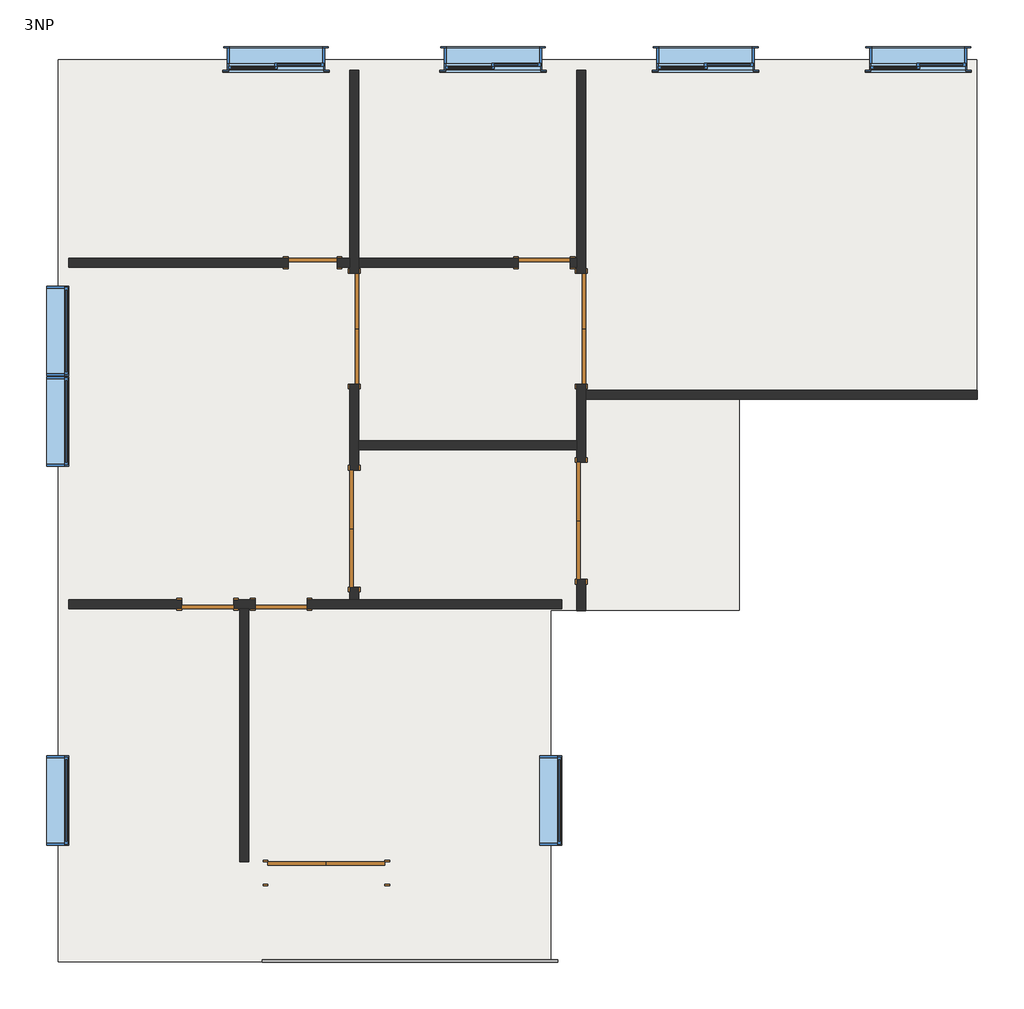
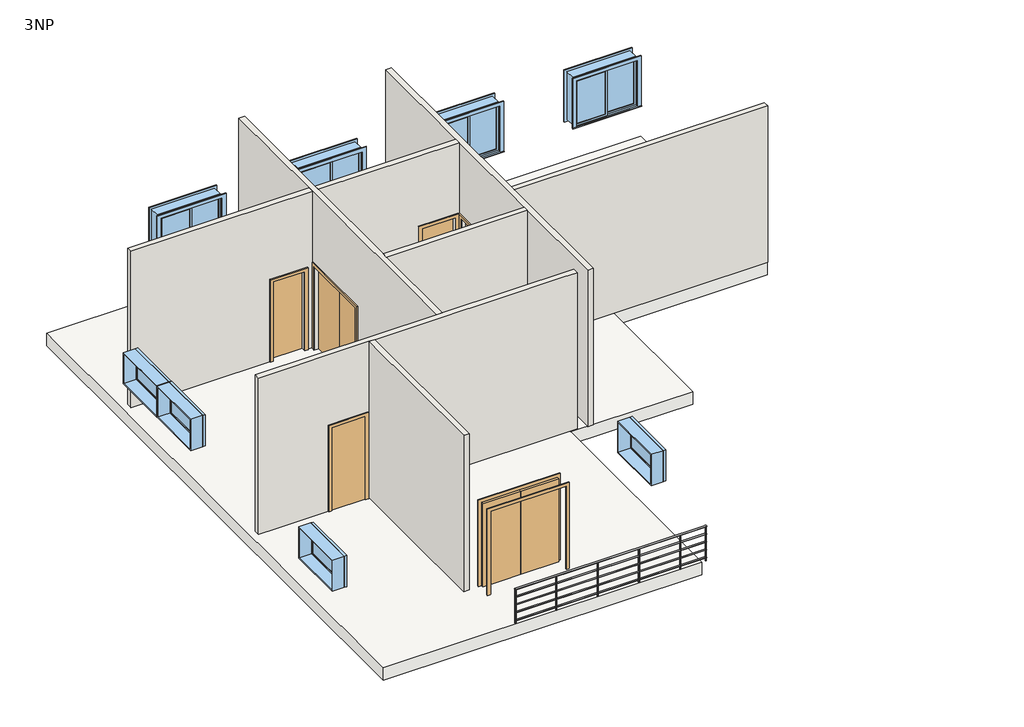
# One storey: 9 doors, 8 walls, 8 windows, 1 railing, 1 slab.
"""IFC4 building model written with IfcOpenShell, lengths in millimetres."""

from ifc_helpers import new_model, si_unit, frame, origin, place, context, project, spatial, polyline, outline, extrude, faceted_brep, transform, mapped, element, save
from components import m_double_flush_1730_x_2134mm_ea805d98, m_double_flush_1830_x_2083mm_7a28c534, m_double_flush_1830_x_2134mm_224c2c1d, m_single_flush_0762_x_2032mm_93de2473, m_single_flush_0813_x_2134mm_bf4bb56d, m_single_flush_0813_x_2134mm_cfdfac75, railing_900mm_pipe_c553a1ad, m_fixed_1400_x_0800mm_a23a53e8, m_sliding_with_trim_1830_x_1220mm_f8e2f31e

model = new_model("IFC4")

# Units and contexts
model_context = context("Model", 3, world=origin())
ifc_project = project(units=[si_unit("LENGTHUNIT", "METRE", prefix="MILLI")], contexts=[model_context])

# Site, building, storey
site = spatial("IfcSite", under=ifc_project)
building = spatial("IfcBuilding", under=site)
storey = spatial("IfcBuildingStorey", under=building, Name="3NP", Elevation=8000.0)

# Doors
placement = place(None, origin())
m_double_flush_1730_x_2134mm_shape = m_double_flush_1730_x_2134mm_ea805d98(model_context)
element("IfcDoor", 1, ObjectType="M_Double-Flush : 1730 x 2134mm", at=placement, inside=storey, context=model_context, shape_type="MappedRepresentation", body=[
    mapped(m_double_flush_1730_x_2134mm_shape, transform((833.993045, 5665.0261065, 8000.0), x_axis=(0.0, 1.0, 0.0), y_axis=(-1.0, 0.0, 0.0), z_axis=(0.0, 0.0, 1.0))),
])
element("IfcDoor", 2, ObjectType="M_Double-Flush : 1730 x 2134mm", at=placement, inside=storey, context=model_context, shape_type="MappedRepresentation", body=[
    mapped(m_double_flush_1730_x_2134mm_shape, transform((-2716.006955, 5665.0261065, 8000.0), x_axis=(0.0, 1.0, 0.0), y_axis=(-1.0, 0.0, 0.0), z_axis=(0.0, 0.0, 1.0))),
])
m_double_flush_1830_x_2083mm_shape = m_double_flush_1830_x_2083mm_7a28c534(model_context)
element("IfcDoor", 3, ObjectType="M_Double-Flush : 1830 x 2083mm", at=placement, inside=storey, context=model_context, shape_type="MappedRepresentation", body=[
    mapped(m_double_flush_1830_x_2083mm_shape, transform((-2716.006955, 2539.8026806, 8000.0), x_axis=(0.0, 1.0, 0.0), y_axis=(-1.0, 0.0, 0.0), z_axis=(0.0, 0.0, 1.0))),
])
element("IfcDoor", 4, ObjectType="M_Double-Flush : 1830 x 2083mm", at=placement, inside=storey, context=model_context, shape_type="MappedRepresentation", body=[
    mapped(m_double_flush_1830_x_2083mm_shape, transform((833.993045, 2658.1003657, 8000.0), x_axis=(0.0, 1.0, 0.0), y_axis=(-1.0, 0.0, 0.0), z_axis=(0.0, 0.0, 1.0))),
])
m_double_flush_1830_x_2134mm_shape = m_double_flush_1830_x_2134mm_224c2c1d(model_context)
element("IfcDoor", 5, ObjectType="M_Double-Flush : 1830 x 2134mm", at=placement, inside=storey, context=model_context, shape_type="MappedRepresentation", body=[
    mapped(m_double_flush_1830_x_2134mm_shape, transform((-3151.8077176, -2850.1973194, 8000.0), x_axis=(0.9999999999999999, 0.0, 0.0), y_axis=(0.0, 0.9999999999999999, 0.0), z_axis=(0.0, 0.0, 1.0))),
])
m_single_flush_0762_x_2032mm_shape = m_single_flush_0762_x_2032mm_93de2473(model_context)
element("IfcDoor", 6, ObjectType="M_Single-Flush : 0762 x 2032mm", at=placement, inside=storey, context=model_context, shape_type="MappedRepresentation", body=[
    mapped(m_single_flush_0762_x_2032mm_shape, transform((-3366.256955, 6699.2761065, 8000.0), x_axis=(1.0, 0.0, 0.0), y_axis=(0.0, 1.0, 0.0), z_axis=(0.0, 0.0, 1.0))),
])
m_single_flush_0813_x_2134mm_shape = m_single_flush_0813_x_2134mm_bf4bb56d(model_context)
element("IfcDoor", 7, ObjectType="M_Single-Flush : 0813 x 2134mm", at=placement, inside=storey, context=model_context, shape_type="MappedRepresentation", body=[
    mapped(m_single_flush_0813_x_2134mm_shape, transform((-5011.8077176, 1355.5526806, 8000.0), x_axis=(1.0, 0.0, 0.0), y_axis=(0.0, 1.0, 0.0), z_axis=(0.0, 0.0, 1.0))),
])
m_single_flush_0813_x_2134mm_2_shape = m_single_flush_0813_x_2134mm_cfdfac75(model_context)
element("IfcDoor", 8, ObjectType="M_Single-Flush : 0813 x 2134mm", at=placement, inside=storey, context=model_context, shape_type="MappedRepresentation", body=[
    mapped(m_single_flush_0813_x_2134mm_2_shape, transform((-3860.3077176, 1355.5526806, 8000.0), x_axis=(-1.0, 0.0, 0.0), y_axis=(0.0, -1.0, 0.0), z_axis=(0.0, 0.0, 1.0))),
])
element("IfcDoor", 9, ObjectType="M_Single-Flush : 0813 x 2134mm", at=placement, inside=storey, context=model_context, shape_type="MappedRepresentation", body=[
    mapped(m_single_flush_0813_x_2134mm_2_shape, transform((258.243045, 6699.2761065, 8000.0), x_axis=(1.0, 0.0, 0.0), y_axis=(0.0, 1.0, 0.0), z_axis=(0.0, 0.0, 1.0))),
])

# Railing
railing_900mm_pipe_shape = railing_900mm_pipe_c553a1ad(model_context)
element("IfcRailing", 10, ObjectType="900mm Pipe", at=placement, inside=storey, context=model_context, shape_type="MappedRepresentation", body=[
    mapped(railing_900mm_pipe_shape, transform((0.0, 0.0, 0.0), x_axis=(1.0, 0.0, 0.0), y_axis=(0.0, 1.0, 0.0), z_axis=(0.0, 0.0, 1.0))),
])

# Slab
element("IfcSlab", 11, ObjectType="Residential 320mm", at=placement, inside=storey, context=model_context, shape_type="SweptSolid", body=[
    extrude(outline(polyline([(-7345.3077176, 9876.6003657), (7023.993045, 9876.6003657), (7023.993045, 4561.5261065), (3308.993045, 4561.5261065), (3308.993045, 1259.8026806), (357.3775179, 1259.8026806), (357.3775179, -4240.1973194), (-7345.3077176, -4240.1973194), (-7345.3077176, 9876.6003657)])), frame((0.0, 0.0, 7680.0), z_axis=(0.0, 0.0, 1.0), x_axis=(1.0, 0.0, 0.0)), (0.0, 0.0, 1.0), 320.0),
])

# Walls
element("IfcWall", 12, ObjectType="Interior - 138mm Partition (1-hr)", at=placement, inside=storey, context=model_context, shape_type="Brep", body=[
    faceted_brep([(-4266.8077176, 1424.8026806, 10134.0), (-4266.8077176, 1424.8026806, 8000.0), (-4605.3077176, 1424.8026806, 8000.0), (-4605.3077176, 1424.8026806, 10134.0), (-5418.3077176, 1424.8026806, 10134.0), (-5418.3077176, 1424.8026806, 8000.0), (-7180.3077176, 1424.8026806, 8000.0), (-7180.3077176, 1424.8026806, 12000.0), (-2785.256955, 1424.8026806, 12000.0), (-2646.756955, 1424.8026806, 12000.0), (532.3775179, 1424.8026806, 12000.0), (532.3775179, 1424.8026806, 8000.0), (182.3775179, 1424.8026806, 8000.0), (-2646.756955, 1424.8026806, 8000.0), (-2785.256955, 1424.8026806, 8000.0), (-3453.8077176, 1424.8026806, 8000.0), (-3453.8077176, 1424.8026806, 10134.0), (-4605.3077176, 1286.3026806, 8000.0), (-4505.3077176, 1286.3026806, 8000.0), (-4366.8077176, 1286.3026806, 8000.0), (-4266.8077176, 1286.3026806, 8000.0), (-4266.8077176, 1286.3026806, 10134.0), (-3453.8077176, 1286.3026806, 10134.0), (-3453.8077176, 1286.3026806, 8000.0), (182.3775179, 1286.3026806, 8000.0), (532.3775179, 1286.3026806, 8000.0), (532.3775179, 1286.3026806, 12000.0), (182.3775179, 1286.3026806, 12000.0), (-4366.8077176, 1286.3026806, 12000.0), (-4505.3077176, 1286.3026806, 12000.0), (-7180.3077176, 1286.3026806, 12000.0), (-7180.3077176, 1286.3026806, 8000.0), (-5418.3077176, 1286.3026806, 8000.0), (-5418.3077176, 1286.3026806, 10134.0), (-4605.3077176, 1286.3026806, 10134.0)], [[[0, 1, 2, 3, 4, 5, 6, 7, 8, 9, 10, 11, 12, 13, 14, 15, 16]], [[17, 18, 19, 20, 21, 22, 23, 24, 25, 26, 27, 28, 29, 30, 31, 32, 33, 34]], [[2, 1, 20, 19, 18, 17]], [[32, 31, 6, 5]], [[15, 14, 13, 12, 11, 25, 24, 23]], [[10, 9, 8, 7, 30, 29, 28, 27, 26]], [[11, 10, 26, 25]], [[7, 6, 31, 30]], [[3, 2, 17, 34]], [[4, 3, 34, 33]], [[5, 4, 33, 32]], [[21, 20, 1, 0]], [[22, 21, 0, 16]], [[23, 22, 16, 15]]]),
])
element("IfcWall", 13, ObjectType="Interior - 138mm Partition (1-hr)", at=placement, inside=storey, context=model_context, shape_type="SweptSolid", body=[
    extrude(outline(polyline([(-4505.3077176, -2675.1973194), (-4505.3077176, 1286.3026806), (-4366.8077176, 1286.3026806), (-4366.8077176, -2675.1973194), (-4505.3077176, -2675.1973194)])), frame((0.0, 0.0, 8000.0), z_axis=(0.0, 0.0, 1.0), x_axis=(1.0, 0.0, 0.0)), (0.0, 0.0, 1.0), 4000.0),
])
element("IfcWall", 14, ObjectType="Interior - 138mm Partition (1-hr)", at=placement, inside=storey, context=model_context, shape_type="Brep", body=[
    faceted_brep([(903.243045, 3573.1003657, 10083.0), (903.243045, 3573.1003657, 8000.0), (903.243045, 4561.5261065, 8000.0), (903.243045, 4700.0261065, 8000.0), (903.243045, 4800.0261065, 8000.0), (903.243045, 4800.0261065, 10134.0), (903.243045, 6530.0261065, 10134.0), (903.243045, 6530.0261065, 8000.0), (903.243045, 9711.6003657, 8000.0), (903.243045, 9711.6003657, 12000.0), (903.243045, 4700.0261065, 12000.0), (903.243045, 4561.5261065, 12000.0), (903.243045, 1249.8026806, 12000.0), (903.243045, 1249.8026806, 8000.0), (903.243045, 1743.1003657, 8000.0), (903.243045, 1743.1003657, 10083.0), (764.743045, 4800.0261065, 8000.0), (764.743045, 3911.6003657, 8000.0), (764.743045, 3773.1003657, 8000.0), (764.743045, 3573.1003657, 8000.0), (764.743045, 3573.1003657, 10083.0), (764.743045, 1743.1003657, 10083.0), (764.743045, 1743.1003657, 8000.0), (764.743045, 1249.8026806, 8000.0), (764.743045, 1249.8026806, 12000.0), (764.743045, 3773.1003657, 12000.0), (764.743045, 3911.6003657, 12000.0), (764.743045, 6630.0261065, 12000.0), (764.743045, 6768.5261065, 12000.0), (764.743045, 9711.6003657, 12000.0), (764.743045, 9711.6003657, 8000.0), (764.743045, 6768.5261065, 8000.0), (764.743045, 6630.0261065, 8000.0), (764.743045, 6530.0261065, 8000.0), (764.743045, 6530.0261065, 10134.0), (764.743045, 4800.0261065, 10134.0), (833.993045, 9711.6003657, 8000.0), (833.993045, 9711.6003657, 12000.0)], [[[0, 1, 2, 3, 4, 5, 6, 7, 8, 9, 10, 11, 12, 13, 14, 15]], [[16, 17, 18, 19, 20, 21, 22, 23, 24, 25, 26, 27, 28, 29, 30, 31, 32, 33, 34, 35]], [[8, 7, 33, 32, 31, 30, 36]], [[4, 3, 2, 1, 19, 18, 17, 16]], [[14, 13, 23, 22]], [[12, 11, 10, 9, 37, 29, 28, 27, 26, 25, 24]], [[13, 12, 24, 23]], [[9, 8, 36, 30, 29, 37]], [[34, 33, 7, 6]], [[35, 34, 6, 5]], [[16, 35, 5, 4]], [[20, 19, 1, 0]], [[21, 20, 0, 15]], [[22, 21, 15, 14]]]),
])
element("IfcWall", 15, ObjectType="Interior - 138mm Partition (1-hr)", at=placement, inside=storey, context=model_context, shape_type="SweptSolid", body=[
    extrude(outline(polyline([(-2646.756955, 3911.6003657), (764.743045, 3911.6003657), (764.743045, 3773.1003657), (-2646.756955, 3773.1003657), (-2646.756955, 3911.6003657)])), frame((0.0, 0.0, 8000.0), z_axis=(0.0, 0.0, 1.0), x_axis=(1.0, 0.0, 0.0)), (0.0, 0.0, 1.0), 4000.0),
])
element("IfcWall", 16, ObjectType="Interior - 138mm Partition (1-hr)", at=placement, inside=storey, context=model_context, shape_type="Brep", body=[
    faceted_brep([(-2646.756955, 3454.8026806, 10083.0), (-2646.756955, 3454.8026806, 8000.0), (-2646.756955, 3773.1003657, 8000.0), (-2646.756955, 3911.6003657, 8000.0), (-2646.756955, 4800.0261065, 8000.0), (-2646.756955, 4800.0261065, 10134.0), (-2646.756955, 6530.0261065, 10134.0), (-2646.756955, 6530.0261065, 8000.0), (-2646.756955, 6630.0261065, 8000.0), (-2646.756955, 6768.5261065, 8000.0), (-2646.756955, 9711.6003657, 8000.0), (-2646.756955, 9711.6003657, 12000.0), (-2646.756955, 6768.5261065, 12000.0), (-2646.756955, 6630.0261065, 12000.0), (-2646.756955, 3911.6003657, 12000.0), (-2646.756955, 3773.1003657, 12000.0), (-2646.756955, 1424.8026806, 12000.0), (-2646.756955, 1424.8026806, 8000.0), (-2646.756955, 1624.8026806, 8000.0), (-2646.756955, 1624.8026806, 10083.0), (-2785.256955, 4800.0261065, 8000.0), (-2785.256955, 3454.8026806, 8000.0), (-2785.256955, 3454.8026806, 10083.0), (-2785.256955, 1624.8026806, 10083.0), (-2785.256955, 1624.8026806, 8000.0), (-2785.256955, 1424.8026806, 8000.0), (-2785.256955, 1424.8026806, 12000.0), (-2785.256955, 6630.0261065, 12000.0), (-2785.256955, 6768.5261065, 12000.0), (-2785.256955, 9711.6003657, 12000.0), (-2785.256955, 9711.6003657, 8000.0), (-2785.256955, 6768.5261065, 8000.0), (-2785.256955, 6630.0261065, 8000.0), (-2785.256955, 6530.0261065, 8000.0), (-2785.256955, 6530.0261065, 10134.0), (-2785.256955, 4800.0261065, 10134.0)], [[[0, 1, 2, 3, 4, 5, 6, 7, 8, 9, 10, 11, 12, 13, 14, 15, 16, 17, 18, 19]], [[20, 21, 22, 23, 24, 25, 26, 27, 28, 29, 30, 31, 32, 33, 34, 35]], [[10, 9, 8, 7, 33, 32, 31, 30]], [[4, 3, 2, 1, 21, 20]], [[18, 17, 25, 24]], [[16, 15, 14, 13, 12, 11, 29, 28, 27, 26]], [[17, 16, 26, 25]], [[11, 10, 30, 29]], [[34, 33, 7, 6]], [[35, 34, 6, 5]], [[20, 35, 5, 4]], [[22, 21, 1, 0]], [[23, 22, 0, 19]], [[24, 23, 19, 18]]]),
])
element("IfcWall", 17, ObjectType="Interior - 138mm Partition (1-hr)", at=placement, inside=storey, context=model_context, shape_type="SweptSolid", body=[
    extrude(outline(polyline([(10134.0, 664.743045), (8000.0, 664.743045), (8000.0, 764.743045), (12000.0, 764.743045), (12000.0, -2646.756955), (8000.0, -2646.756955), (8000.0, -148.256955), (10134.0, -148.256955), (10134.0, 664.743045)])), frame((0.0, 6630.0261065, 0.0), z_axis=(0.0, 1.0, 0.0), x_axis=(0.0, 0.0, 1.0)), (0.0, 0.0, 1.0), 138.5),
])
element("IfcWall", 18, ObjectType="Interior - 138mm Partition (1-hr)", at=placement, inside=storey, context=model_context, shape_type="SweptSolid", body=[
    extrude(outline(polyline([(10032.0, -2985.256955), (8000.0, -2985.256955), (8000.0, -2785.256955), (12000.0, -2785.256955), (12000.0, -7180.3077176), (8000.0, -7180.3077176), (8000.0, -3747.256955), (10032.0, -3747.256955), (10032.0, -2985.256955)])), frame((0.0, 6630.0261065, 0.0), z_axis=(0.0, 1.0, 0.0), x_axis=(0.0, 0.0, 1.0)), (0.0, 0.0, 1.0), 138.5),
])
element("IfcWall", 19, ObjectType="Interior - 138mm Partition (1-hr)", at=placement, inside=storey, context=model_context, shape_type="SweptSolid", body=[
    extrude(outline(polyline([(7033.993045, 4561.5261065), (903.243045, 4561.5261065), (903.243045, 4700.0261065), (7033.993045, 4700.0261065), (7033.993045, 4561.5261065)])), frame((0.0, 0.0, 8000.0), z_axis=(0.0, 0.0, 1.0), x_axis=(1.0, 0.0, 0.0)), (0.0, 0.0, 1.0), 4000.0),
])

# Windows
m_fixed_1400_x_0800mm_shape = m_fixed_1400_x_0800mm_a23a53e8(model_context)
element("IfcWindow", 20, ObjectType="M_Fixed : 1400 x 0800mm", at=placement, inside=storey, context=model_context, shape_type="MappedRepresentation", body=[
    mapped(m_fixed_1400_x_0800mm_shape, transform((-7368.3077176, -1717.6973194, 8000.0), x_axis=(0.0, -1.0, 0.0), y_axis=(1.0, 0.0, 0.0), z_axis=(0.0, 0.0, 1.0))),
])
element("IfcWindow", 21, ObjectType="M_Fixed : 1400 x 0800mm", at=placement, inside=storey, context=model_context, shape_type="MappedRepresentation", body=[
    mapped(m_fixed_1400_x_0800mm_shape, transform((-7368.3077176, 4217.3026806, 8000.0), x_axis=(0.0, -1.0, 0.0), y_axis=(1.0, 0.0, 0.0), z_axis=(0.0, 0.0, 1.0))),
])
element("IfcWindow", 22, ObjectType="M_Fixed : 1400 x 0800mm", at=placement, inside=storey, context=model_context, shape_type="MappedRepresentation", body=[
    mapped(m_fixed_1400_x_0800mm_shape, transform((-7368.3077176, 5632.3026806, 8000.0), x_axis=(0.0, -1.0, 0.0), y_axis=(1.0, 0.0, 0.0), z_axis=(0.0, 0.0, 1.0))),
])
element("IfcWindow", 23, ObjectType="M_Fixed : 1400 x 0800mm", at=placement, inside=storey, context=model_context, shape_type="MappedRepresentation", body=[
    mapped(m_fixed_1400_x_0800mm_shape, transform((344.3775179, -1717.6973194, 8000.0), x_axis=(0.0, -1.0, 0.0), y_axis=(1.0, 0.0, 0.0), z_axis=(0.0, 0.0, 1.0))),
])
m_sliding_with_trim_1830_x_1220mm_shape = m_sliding_with_trim_1830_x_1220mm_f8e2f31e(model_context)
element("IfcWindow", 24, ObjectType="M_Sliding with Trim : 1830 x 1220mm", at=placement, inside=storey, context=model_context, shape_type="MappedRepresentation", body=[
    mapped(m_sliding_with_trim_1830_x_1220mm_shape, transform((6107.6922824, 9886.6003657, 8000.0), x_axis=(-1.0, 0.0, 0.0), y_axis=(0.0, -1.0, 0.0), z_axis=(0.0, 0.0, 1.0))),
])
element("IfcWindow", 25, ObjectType="M_Sliding with Trim : 1830 x 1220mm", at=placement, inside=storey, context=model_context, shape_type="MappedRepresentation", body=[
    mapped(m_sliding_with_trim_1830_x_1220mm_shape, transform((2781.6922824, 9886.6003657, 8000.0), x_axis=(-1.0, 0.0, 0.0), y_axis=(0.0, -1.0, 0.0), z_axis=(0.0, 0.0, 1.0))),
])
element("IfcWindow", 26, ObjectType="M_Sliding with Trim : 1830 x 1220mm", at=placement, inside=storey, context=model_context, shape_type="MappedRepresentation", body=[
    mapped(m_sliding_with_trim_1830_x_1220mm_shape, transform((-544.3077176, 9886.6003657, 8000.0), x_axis=(-1.0, 0.0, 0.0), y_axis=(0.0, -1.0, 0.0), z_axis=(0.0, 0.0, 1.0))),
])
element("IfcWindow", 27, ObjectType="M_Sliding with Trim : 1830 x 1220mm", at=placement, inside=storey, context=model_context, shape_type="MappedRepresentation", body=[
    mapped(m_sliding_with_trim_1830_x_1220mm_shape, transform((-3940.1577176, 9886.6003657, 8000.0), x_axis=(-1.0, 0.0, 0.0), y_axis=(0.0, -1.0, 0.0), z_axis=(0.0, 0.0, 1.0))),
])

save(model, "model.ifc")
